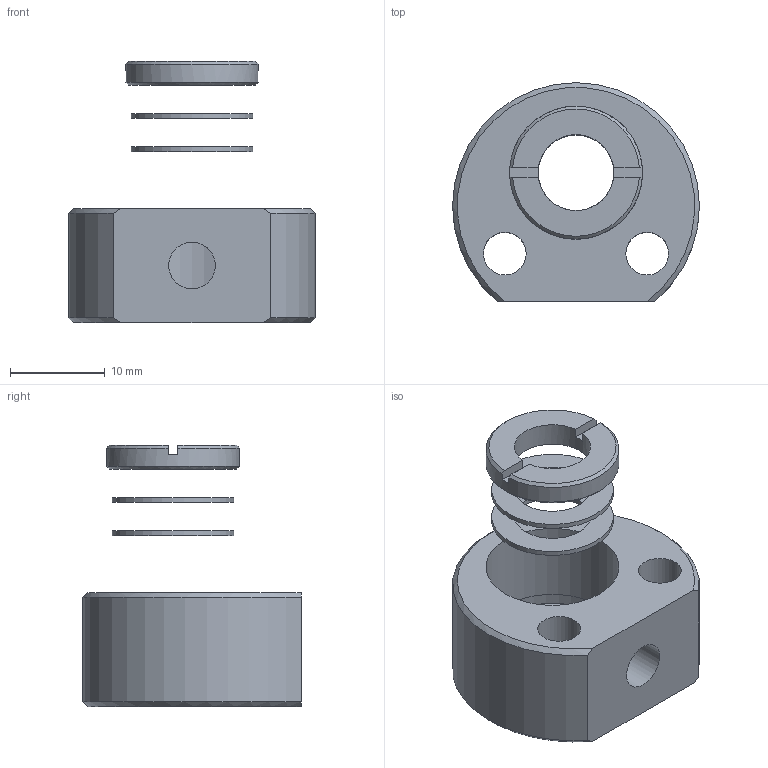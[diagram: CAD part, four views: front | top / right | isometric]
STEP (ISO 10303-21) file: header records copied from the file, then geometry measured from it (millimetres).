
FILE_DESCRIPTION(/* description */ (''),/* implementation_level */ '2;1');
FILE_NAME(/* name */ 'U:\KONSTRUKTORIAI\! ! ! BENDRAS ! ! !\Darius\Darius\Schemos\04\4OCM\4OCM-10\STEP\4OCM-10 INT.stp',/* time_stamp */ '2016-03-31T10:06:33+03:00',/* author */ ('dsgn39'),/* organization */ (''),/* preprocessor_version */ 'ST-DEVELOPER v15.2',/* originating_system */ 'Autodesk Inventor 2014',/* authorisation */ '');
FILE_SCHEMA (('AUTOMOTIVE_DESIGN { 1 0 10303 214 3 1 1 }'));
Length unit declared in the file: inch
Products named in the file (1): 4OCM-10 INT
Bounding box: 26 x 23 x 27.5 mm (x, y, z)
Volume: 4061.2 mm3; surface area: 3432.2 mm2
Topology: 4 solids, 4 shells, 37 faces, 85 edges, 57 vertices
Faces by surface type: plane 18, cylinder 13, cone 6
Full cylindrical faces by diameter (mm): 4.5 x2, 4.917 x1, 8 x4, 12.8 x2, 14 x2, 15 x1
Entity records: 1071 total; most frequent: CARTESIAN_POINT 205, DIRECTION 170, ORIENTED_EDGE 132, AXIS2_PLACEMENT_3D 75, EDGE_LOOP 66, EDGE_CURVE 66, VERTEX_POINT 52, STYLED_ITEM 41
